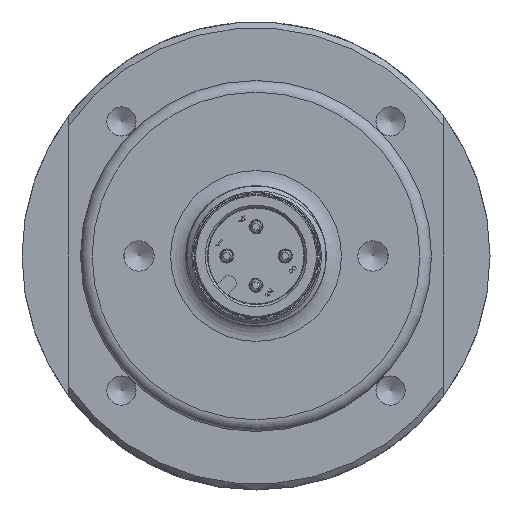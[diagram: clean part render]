
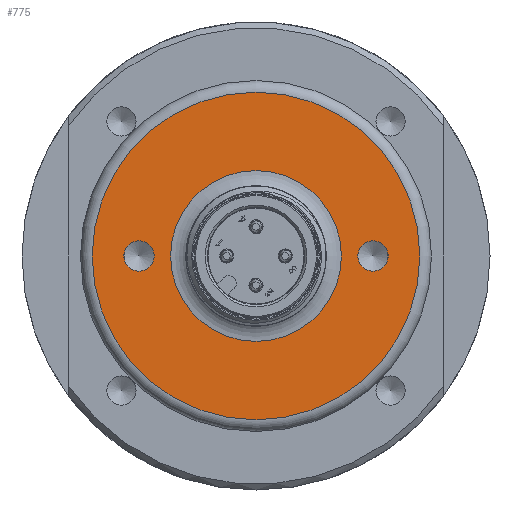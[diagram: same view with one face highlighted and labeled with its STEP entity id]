
A CAD part, front view. The second image highlights one B-rep face of the part: STEP entity #775.
In plain terms, the highlighted planar face has unit normal (0, -1, 0) as drawn and (0, 1, 0) by its records, which use the part's own axes.
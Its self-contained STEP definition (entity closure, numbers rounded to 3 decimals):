
#775 = ADVANCED_FACE( '', ( #1549, #1550, #1551, #1552 ), #1553, .T. );
#1549 = FACE_BOUND( '', #5164, .T. );
#1550 = FACE_OUTER_BOUND( '', #5165, .T. );
#1551 = FACE_BOUND( '', #5166, .T. );
#1552 = FACE_BOUND( '', #5167, .T. );
#1553 = PLANE( '', #5168 );
#5164 = EDGE_LOOP( '', ( #7891 ) );
#5165 = EDGE_LOOP( '', ( #7892 ) );
#5166 = EDGE_LOOP( '', ( #7893 ) );
#5167 = EDGE_LOOP( '', ( #7894 ) );
#5168 = AXIS2_PLACEMENT_3D( '', #7895, #7896, #7897 );
#7891 = ORIENTED_EDGE( '', *, *, #8478, .T. );
#7892 = ORIENTED_EDGE( '', *, *, #8947, .T. );
#7893 = ORIENTED_EDGE( '', *, *, #8948, .T. );
#7894 = ORIENTED_EDGE( '', *, *, #8805, .T. );
#7895 = CARTESIAN_POINT( '', ( -15., -2.104, 0. ) );
#7896 = DIRECTION( '', ( 0., 1., 0. ) );
#7897 = DIRECTION( '', ( -1., 0., 0. ) );
#8478 = EDGE_CURVE( '', #9152, #9152, #9153, .F. );
#8805 = EDGE_CURVE( '', #9668, #9668, #9669, .T. );
#8947 = EDGE_CURVE( '', #9853, #9853, #9854, .T. );
#8948 = EDGE_CURVE( '', #9855, #9855, #9856, .T. );
#9152 = VERTEX_POINT( '', #10239 );
#9153 = CIRCLE( '', #10240, 7.3 );
#9668 = VERTEX_POINT( '', #12291 );
#9669 = CIRCLE( '', #12292, 1.3 );
#9853 = VERTEX_POINT( '', #13750 );
#9854 = CIRCLE( '', #13751, 14. );
#9855 = VERTEX_POINT( '', #13752 );
#9856 = CIRCLE( '', #13753, 1.3 );
#10239 = CARTESIAN_POINT( '', ( -7.3, -2.104, 0. ) );
#10240 = AXIS2_PLACEMENT_3D( '', #14067, #14068, #14069 );
#12291 = CARTESIAN_POINT( '', ( -1.3, -2.104, 10. ) );
#12292 = AXIS2_PLACEMENT_3D( '', #14409, #14410, #14411 );
#13750 = CARTESIAN_POINT( '', ( -14., -2.104, 0. ) );
#13751 = AXIS2_PLACEMENT_3D( '', #14526, #14527, #14528 );
#13752 = CARTESIAN_POINT( '', ( -1.3, -2.104, -10. ) );
#13753 = AXIS2_PLACEMENT_3D( '', #14529, #14530, #14531 );
#14067 = CARTESIAN_POINT( '', ( 0., -2.104, 0. ) );
#14068 = DIRECTION( '', ( 0., 1., 0. ) );
#14069 = DIRECTION( '', ( -1., 0., 0. ) );
#14409 = CARTESIAN_POINT( '', ( 0., -2.104, 10. ) );
#14410 = DIRECTION( '', ( 0., -1., 0. ) );
#14411 = DIRECTION( '', ( -1., 0., 0. ) );
#14526 = CARTESIAN_POINT( '', ( 0., -2.104, 0. ) );
#14527 = DIRECTION( '', ( 0., 1., 0. ) );
#14528 = DIRECTION( '', ( -1., 0., 0. ) );
#14529 = CARTESIAN_POINT( '', ( 0., -2.104, -10. ) );
#14530 = DIRECTION( '', ( 0., -1., 0. ) );
#14531 = DIRECTION( '', ( -1., 0., 0. ) );
